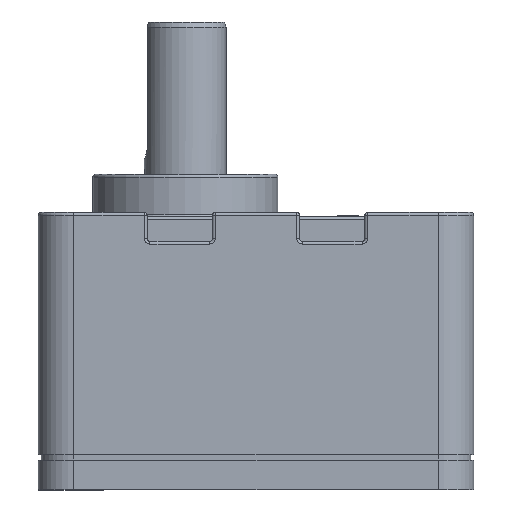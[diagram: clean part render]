
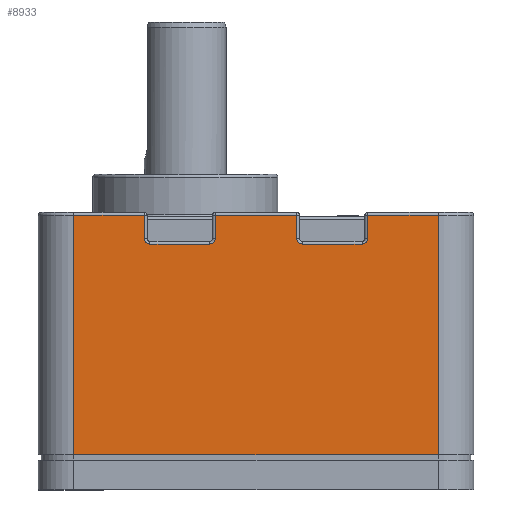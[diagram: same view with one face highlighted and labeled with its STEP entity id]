
A CAD part, left-side view. The second image highlights one B-rep face of the part: STEP entity #8933.
In plain terms, the highlighted planar face has unit normal (-1, 0, 0).
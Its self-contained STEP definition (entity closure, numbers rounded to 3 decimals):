
#8589=CARTESIAN_POINT('',(-80.,6.5,74.002));
#8590=VERTEX_POINT('',#8589);
#8599=CARTESIAN_POINT('',(-80.,19.5,74.002));
#8600=VERTEX_POINT('',#8599);
#8608=CARTESIAN_POINT('',(-80.,19.5,74.002));
#8609=DIRECTION('',(0.0,-1.0,0.0));
#8610=VECTOR('',#8609,13.);
#8611=LINE('',#8608,#8610);
#8612=EDGE_CURVE('',#8600,#8590,#8611,.T.);
#8803=CARTESIAN_POINT('',(-80.,80.,74.502));
#8804=DIRECTION('',(-1.0,0.0,0.0));
#8805=DIRECTION('',(0.0,0.0,-1.0));
#8806=AXIS2_PLACEMENT_3D('',#8803,#8804,#8805);
#8807=PLANE('',#8806);
#8808=ORIENTED_EDGE('',*,*,#8612,.F.);
#8809=CARTESIAN_POINT('',(-80.,19.5,69.702));
#8810=VERTEX_POINT('',#8809);
#8811=CARTESIAN_POINT('',(-80.,19.5,69.702));
#8812=DIRECTION('',(0.0,0.0,1.0));
#8813=VECTOR('',#8812,4.3);
#8814=LINE('',#8811,#8813);
#8815=EDGE_CURVE('',#8810,#8600,#8814,.T.);
#8816=ORIENTED_EDGE('',*,*,#8815,.F.);
#8817=CARTESIAN_POINT('',(-80.,20.5,68.702));
#8818=VERTEX_POINT('',#8817);
#8819=CARTESIAN_POINT('',(-80.,20.5,69.702));
#8820=DIRECTION('',(-1.0,0.,0.));
#8821=DIRECTION('',(0.,-0.707,-0.707));
#8822=AXIS2_PLACEMENT_3D('',#8819,#8820,#8821);
#8823=CIRCLE('',#8822,1.0);
#8824=EDGE_CURVE('',#8818,#8810,#8823,.T.);
#8825=ORIENTED_EDGE('',*,*,#8824,.F.);
#8826=CARTESIAN_POINT('',(-80.,31.5,68.702));
#8827=VERTEX_POINT('',#8826);
#8828=CARTESIAN_POINT('',(-80.,31.5,68.702));
#8829=DIRECTION('',(0.0,-1.0,0.0));
#8830=VECTOR('',#8829,11.);
#8831=LINE('',#8828,#8830);
#8832=EDGE_CURVE('',#8827,#8818,#8831,.T.);
#8833=ORIENTED_EDGE('',*,*,#8832,.F.);
#8834=CARTESIAN_POINT('',(-80.,32.5,69.702));
#8835=VERTEX_POINT('',#8834);
#8836=CARTESIAN_POINT('',(-80.,31.5,69.702));
#8837=DIRECTION('',(-1.,0.,0.));
#8838=DIRECTION('',(0.,0.707,-0.707));
#8839=AXIS2_PLACEMENT_3D('',#8836,#8837,#8838);
#8840=CIRCLE('',#8839,1.);
#8841=EDGE_CURVE('',#8835,#8827,#8840,.T.);
#8842=ORIENTED_EDGE('',*,*,#8841,.F.);
#8843=CARTESIAN_POINT('',(-80.,32.5,74.002));
#8844=VERTEX_POINT('',#8843);
#8845=CARTESIAN_POINT('',(-80.,32.5,74.002));
#8846=DIRECTION('',(0.0,0.0,-1.0));
#8847=VECTOR('',#8846,4.3);
#8848=LINE('',#8845,#8847);
#8849=EDGE_CURVE('',#8844,#8835,#8848,.T.);
#8850=ORIENTED_EDGE('',*,*,#8849,.F.);
#8851=CARTESIAN_POINT('',(-80.,47.5,74.002));
#8852=VERTEX_POINT('',#8851);
#8853=CARTESIAN_POINT('',(-80.,47.5,74.002));
#8854=DIRECTION('',(0.0,-1.0,0.0));
#8855=VECTOR('',#8854,15.);
#8856=LINE('',#8853,#8855);
#8857=EDGE_CURVE('',#8852,#8844,#8856,.T.);
#8858=ORIENTED_EDGE('',*,*,#8857,.F.);
#8859=CARTESIAN_POINT('',(-80.,47.5,69.702));
#8860=VERTEX_POINT('',#8859);
#8861=CARTESIAN_POINT('',(-80.,47.5,69.702));
#8862=DIRECTION('',(0.0,0.0,1.0));
#8863=VECTOR('',#8862,4.3);
#8864=LINE('',#8861,#8863);
#8865=EDGE_CURVE('',#8860,#8852,#8864,.T.);
#8866=ORIENTED_EDGE('',*,*,#8865,.F.);
#8867=CARTESIAN_POINT('',(-80.,48.5,68.702));
#8868=VERTEX_POINT('',#8867);
#8869=CARTESIAN_POINT('',(-80.,48.5,69.702));
#8870=DIRECTION('',(-1.,0.,0.));
#8871=DIRECTION('',(0.,-0.707,-0.707));
#8872=AXIS2_PLACEMENT_3D('',#8869,#8870,#8871);
#8873=CIRCLE('',#8872,1.);
#8874=EDGE_CURVE('',#8868,#8860,#8873,.T.);
#8875=ORIENTED_EDGE('',*,*,#8874,.F.);
#8876=CARTESIAN_POINT('',(-80.,59.5,68.702));
#8877=VERTEX_POINT('',#8876);
#8878=CARTESIAN_POINT('',(-80.,59.5,68.702));
#8879=DIRECTION('',(0.0,-1.0,0.0));
#8880=VECTOR('',#8879,11.);
#8881=LINE('',#8878,#8880);
#8882=EDGE_CURVE('',#8877,#8868,#8881,.T.);
#8883=ORIENTED_EDGE('',*,*,#8882,.F.);
#8884=CARTESIAN_POINT('',(-80.,60.5,69.702));
#8885=VERTEX_POINT('',#8884);
#8886=CARTESIAN_POINT('',(-80.,59.5,69.702));
#8887=DIRECTION('',(-1.0,0.,0.));
#8888=DIRECTION('',(0.,0.707,-0.707));
#8889=AXIS2_PLACEMENT_3D('',#8886,#8887,#8888);
#8890=CIRCLE('',#8889,1.0);
#8891=EDGE_CURVE('',#8885,#8877,#8890,.T.);
#8892=ORIENTED_EDGE('',*,*,#8891,.F.);
#8893=CARTESIAN_POINT('',(-80.,60.5,74.002));
#8894=VERTEX_POINT('',#8893);
#8895=CARTESIAN_POINT('',(-80.,60.5,74.002));
#8896=DIRECTION('',(0.0,0.0,-1.0));
#8897=VECTOR('',#8896,4.3);
#8898=LINE('',#8895,#8897);
#8899=EDGE_CURVE('',#8894,#8885,#8898,.T.);
#8900=ORIENTED_EDGE('',*,*,#8899,.F.);
#8901=CARTESIAN_POINT('',(-80.,73.5,74.002));
#8902=VERTEX_POINT('',#8901);
#8903=CARTESIAN_POINT('',(-80.,73.5,74.002));
#8904=DIRECTION('',(0.0,-1.0,0.0));
#8905=VECTOR('',#8904,13.);
#8906=LINE('',#8903,#8905);
#8907=EDGE_CURVE('',#8902,#8894,#8906,.T.);
#8908=ORIENTED_EDGE('',*,*,#8907,.F.);
#8909=CARTESIAN_POINT('',(-80.,73.5,30.002));
#8910=VERTEX_POINT('',#8909);
#8911=CARTESIAN_POINT('',(-80.,73.5,30.002));
#8912=DIRECTION('',(0.0,0.0,1.0));
#8913=VECTOR('',#8912,44.);
#8914=LINE('',#8911,#8913);
#8915=EDGE_CURVE('',#8910,#8902,#8914,.T.);
#8916=ORIENTED_EDGE('',*,*,#8915,.F.);
#8917=CARTESIAN_POINT('',(-80.,6.5,30.002));
#8918=VERTEX_POINT('',#8917);
#8919=CARTESIAN_POINT('',(-80.,73.5,30.002));
#8920=DIRECTION('',(0.0,-1.0,0.0));
#8921=VECTOR('',#8920,67.);
#8922=LINE('',#8919,#8921);
#8923=EDGE_CURVE('',#8910,#8918,#8922,.T.);
#8924=ORIENTED_EDGE('',*,*,#8923,.T.);
#8925=CARTESIAN_POINT('',(-80.,6.5,74.002));
#8926=DIRECTION('',(0.0,0.0,-1.0));
#8927=VECTOR('',#8926,44.);
#8928=LINE('',#8925,#8927);
#8929=EDGE_CURVE('',#8590,#8918,#8928,.T.);
#8930=ORIENTED_EDGE('',*,*,#8929,.F.);
#8931=EDGE_LOOP('',(#8808,#8816,#8825,#8833,#8842,#8850,#8858,#8866,#8875,#8883,#8892,#8900,#8908,#8916,#8924,#8930));
#8932=FACE_OUTER_BOUND('',#8931,.T.);
#8933=ADVANCED_FACE('',(#8932),#8807,.T.);
